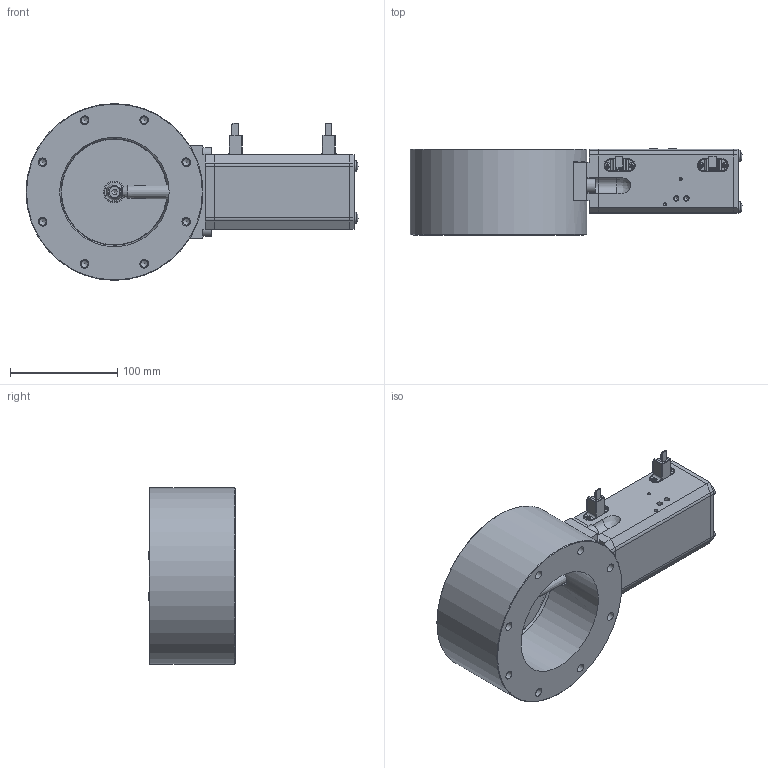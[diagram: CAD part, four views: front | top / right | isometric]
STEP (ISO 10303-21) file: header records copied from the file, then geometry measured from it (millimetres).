
FILE_DESCRIPTION(/* description */ (''),/* implementation_level */ '2;1');
FILE_NAME(/* name */ '1069038428_203.stp',/* time_stamp */ '2010-10-13T08:14:00+02:00',/* author */ (''),/* organization */ (''),/* preprocessor_version */ 'ST-DEVELOPER v11',/* originating_system */ 'SIEMENS UGS NX 6.0',/* authorisation */ '');
FILE_SCHEMA (('CONFIG_CONTROL_DESIGN'));
Length unit declared in the file: millimetre
Products named in the file (26): 227430.1; N-8409-200.3; 92571-01.2; N-6089-308.1; 336404; 227328.2; 227452.1; N-6024-515.1; 227450.1; 365072; 372221; 235197.2; 224223.6; 224374.6; 233106.4; 224315.3; 233137.1; 225582.1; N-6005-474.1; 224828.2; N-6013-443.2; 227117.3; 226699_NX-ARRAGMNTZUSAMMENST1; 372317_MODEL; 336413_NX-ARRAGMNTZUSAMMENST1; 373099
Assembly tree (34 placements, depth 4):
  373099
    N-6013-443.2  x4
    224828.2  x2
    N-6005-474.1
    225582.1  x4
    233137.1
    224315.3
    233106.4
    224374.6
    224223.6
    336413_NX-ARRAGMNTZUSAMMENST1
      372317_MODEL
        336404
        N-6089-308.1
      372221
      365072
    235197.2
    226699_NX-ARRAGMNTZUSAMMENST1  x2
      227450.1
      N-6024-515.1
      227452.1
      227328.2
      227117.3
        92571-01.2
        N-8409-200.3
        227430.1
Bounding box: 309.7 x 80.28 x 165 mm (x, y, z)
Volume: 1448241.8 mm3; surface area: 248608.2 mm2
Topology: 43 solids, 43 shells, 1162 faces, 2864 edges, 1861 vertices
Faces by surface type: plane 685, cylinder 330, cone 85, bspline 29, sphere 17, torus 16
Full cylindrical faces by diameter (mm): 0.4 x4, 0.6 x4, 1.1 x4, 1.2 x2, 2 x6, 2.2 x4, 2.5 x10, 2.7 x2, 2.9 x4, 3 x2, 3.2 x2, 3.3 x4, 4 x11, 4.4 x12, 4.96 x1, 5 x19, 5.006 x1, 5.4 x8, 6 x3, 6.3 x1, 6.4 x14, 6.66 x2, 6.7 x2, 6.8 x2, 6.9 x1, 7.008 x1, 7.3 x2, 7.5 x4, 8 x24, 8.2 x2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
Entity records: 25342 total; most frequent: CARTESIAN_POINT 4877, DIRECTION 3644, ORIENTED_EDGE 3128, EDGE_CURVE 1564, AXIS2_PLACEMENT_3D 1394, VERTEX_POINT 1194, EDGE_LOOP 1174, LINE 856
